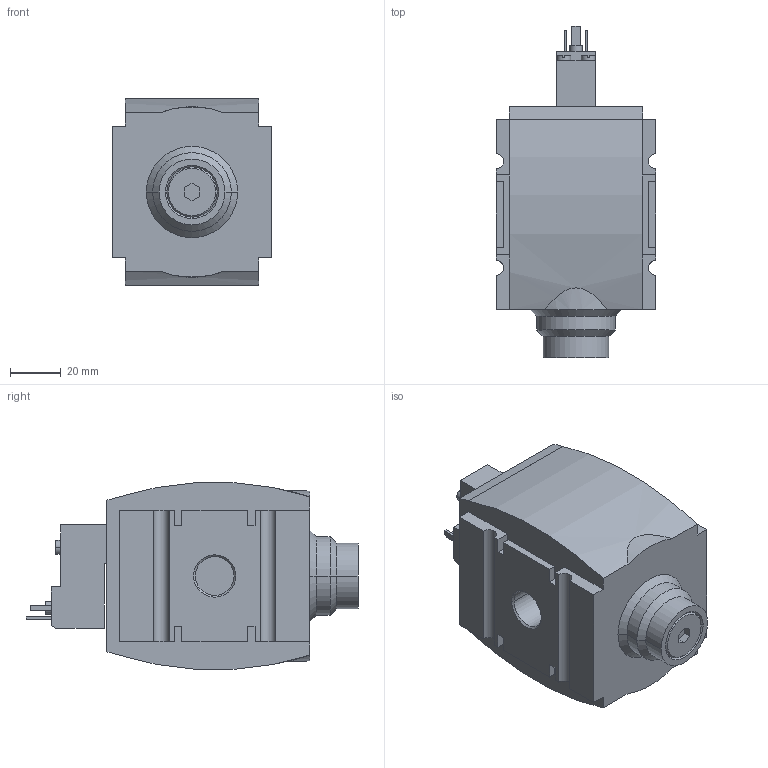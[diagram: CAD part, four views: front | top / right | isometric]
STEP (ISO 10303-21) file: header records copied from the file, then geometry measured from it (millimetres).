
FILE_DESCRIPTION((''),'2;1');
FILE_NAME('R412007341','2016-06-22T',('prr2cob'),(''),'PRO/ENGINEER BY PARAMETRIC TECHNOLOGY CORPORATION, 2012421','PRO/ENGINEER BY PARAMETRIC TECHNOLOGY CORPORATION, 2012421','');
FILE_SCHEMA(('CONFIG_CONTROL_DESIGN','SHAPE_APPEARANCE_LAYERS_GROUPS'));
Length unit declared in the file: millimetre
Products named in the file (1): R412007341
Bounding box: 63 x 130.9 x 73.54 mm (x, y, z)
Volume: 347501.3 mm3; surface area: 37244.4 mm2
Topology: 1 solids, 1 shells, 133 faces, 349 edges, 228 vertices
Faces by surface type: plane 99, cylinder 22, cone 12
Entity records: 4191 total; most frequent: CARTESIAN_POINT 796, ORIENTED_EDGE 698, DIRECTION 677, EDGE_CURVE 349, VECTOR 283, LINE 283, VERTEX_POINT 228, AXIS2_PLACEMENT_3D 197
